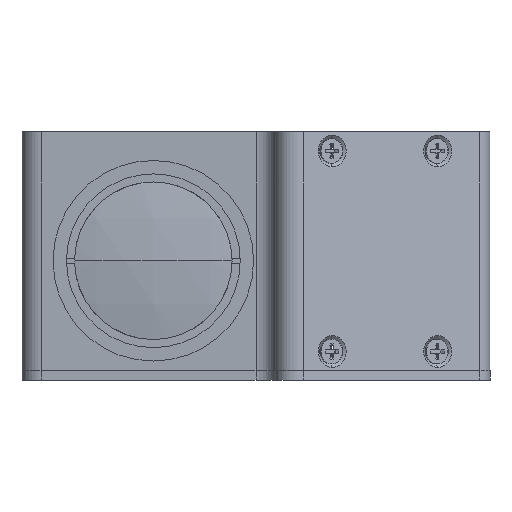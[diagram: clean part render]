
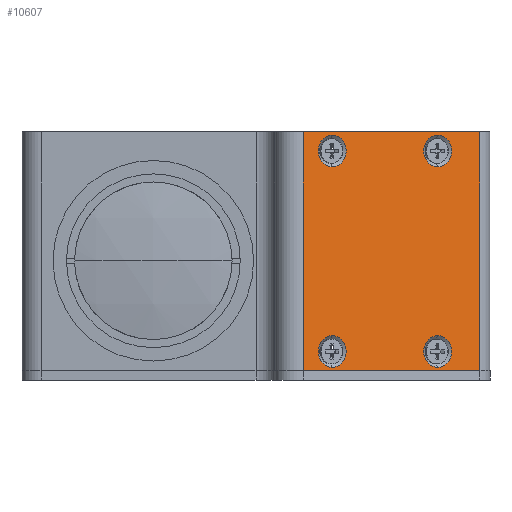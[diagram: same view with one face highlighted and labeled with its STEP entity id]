
A CAD part, left-side view. The second image highlights one B-rep face of the part: STEP entity #10607.
In plain terms, the highlighted planar face has unit normal (-0.883, -0.469, 0).
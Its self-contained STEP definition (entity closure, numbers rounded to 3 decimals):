
#164 = CIRCLE ( 'NONE', #12074, 3.3 ) ;
#388 = VERTEX_POINT ( 'NONE', #3899 ) ;
#584 = VERTEX_POINT ( 'NONE', #7796 ) ;
#800 = ORIENTED_EDGE ( 'NONE', *, *, #3124, .F. ) ;
#1301 = VERTEX_POINT ( 'NONE', #5054 ) ;
#1310 = EDGE_CURVE ( 'NONE', #5086, #10888, #164, .T. ) ;
#1343 = PLANE ( 'NONE',  #9828 ) ;
#1437 = AXIS2_PLACEMENT_3D ( 'NONE', #9881, #2918, #11020 ) ;
#1849 = ORIENTED_EDGE ( 'NONE', *, *, #2270, .F. ) ;
#2143 = CARTESIAN_POINT ( 'NONE',  ( 67.497, -74.473, -23. ) ) ;
#2183 = VERTEX_POINT ( 'NONE', #5056 ) ;
#2270 = EDGE_CURVE ( 'NONE', #10168, #584, #3877, .T. ) ;
#2389 = ORIENTED_EDGE ( 'NONE', *, *, #5484, .F. ) ;
#2438 = CARTESIAN_POINT ( 'NONE',  ( 54.469, -49.971, 2. ) ) ;
#2603 = CARTESIAN_POINT ( 'NONE',  ( 64.256, -68.378, 2. ) ) ;
#2613 = FACE_BOUND ( 'NONE', #13166, .T. ) ;
#2890 = ORIENTED_EDGE ( 'NONE', *, *, #1310, .F. ) ;
#2918 = DIRECTION ( 'NONE',  ( -0.883, -0.469, 0. ) ) ;
#2971 = LINE ( 'NONE', #2603, #11836 ) ;
#3124 = EDGE_CURVE ( 'NONE', #2183, #11766, #13444, .T. ) ;
#3152 = EDGE_CURVE ( 'NONE', #12653, #4524, #7318, .T. ) ;
#3207 = AXIS2_PLACEMENT_3D ( 'NONE', #3964, #12058, #5139 ) ;
#3566 = DIRECTION ( 'NONE',  ( -0.883, -0.469, 0. ) ) ;
#3646 = DIRECTION ( 'NONE',  ( 0., 0., 1. ) ) ;
#3771 = DIRECTION ( 'NONE',  ( 0., 0., 1. ) ) ;
#3877 = CIRCLE ( 'NONE', #1437, 3.3 ) ;
#3884 = ORIENTED_EDGE ( 'NONE', *, *, #6439, .F. ) ;
#3899 = CARTESIAN_POINT ( 'NONE',  ( 44.566, -31.348, 27. ) ) ;
#3960 = CARTESIAN_POINT ( 'NONE',  ( 64.256, -68.378, -23. ) ) ;
#3964 = CARTESIAN_POINT ( 'NONE',  ( 59.561, -59.548, -19. ) ) ;
#4169 = LINE ( 'NONE', #2143, #9979 ) ;
#4223 = VERTEX_POINT ( 'NONE', #3960 ) ;
#4352 = CARTESIAN_POINT ( 'NONE',  ( 44.566, -31.348, 2. ) ) ;
#4393 = ORIENTED_EDGE ( 'NONE', *, *, #13519, .F. ) ;
#4524 = VERTEX_POINT ( 'NONE', #11494 ) ;
#4693 = VERTEX_POINT ( 'NONE', #14109 ) ;
#4775 = DIRECTION ( 'NONE',  ( -0.883, -0.469, 0. ) ) ;
#4880 = ORIENTED_EDGE ( 'NONE', *, *, #9189, .T. ) ;
#4886 = CIRCLE ( 'NONE', #8592, 3.3 ) ;
#5054 = CARTESIAN_POINT ( 'NONE',  ( 44.566, -31.348, -23. ) ) ;
#5056 = CARTESIAN_POINT ( 'NONE',  ( 59.561, -59.548, -22.3 ) ) ;
#5086 = VERTEX_POINT ( 'NONE', #10324 ) ;
#5139 = DIRECTION ( 'NONE',  ( 0., 0., 1. ) ) ;
#5260 = CARTESIAN_POINT ( 'NONE',  ( 59.561, -59.548, 23. ) ) ;
#5362 = CIRCLE ( 'NONE', #3207, 3.3 ) ;
#5484 = EDGE_CURVE ( 'NONE', #584, #10168, #12522, .T. ) ;
#5572 = VECTOR ( 'NONE', #12441, 1000. ) ;
#5720 = FACE_BOUND ( 'NONE', #11639, .T. ) ;
#5752 = CARTESIAN_POINT ( 'NONE',  ( 47.824, -37.475, 23. ) ) ;
#5770 = EDGE_CURVE ( 'NONE', #4524, #12653, #8207, .T. ) ;
#5888 = VECTOR ( 'NONE', #12613, 1000. ) ;
#5905 = DIRECTION ( 'NONE',  ( -0.883, -0.469, 0. ) ) ;
#6076 = FACE_OUTER_BOUND ( 'NONE', #7683, .T. ) ;
#6243 = LINE ( 'NONE', #11471, #5888 ) ;
#6430 = DIRECTION ( 'NONE',  ( 0., 0., 1. ) ) ;
#6439 = EDGE_CURVE ( 'NONE', #10888, #5086, #4886, .T. ) ;
#6502 = DIRECTION ( 'NONE',  ( -0.883, -0.469, 0. ) ) ;
#6618 = DIRECTION ( 'NONE',  ( 0., 0., 1. ) ) ;
#6718 = DIRECTION ( 'NONE',  ( -0.469, 0.883, 0. ) ) ;
#6916 = DIRECTION ( 'NONE',  ( 0., 0., 1. ) ) ;
#7318 = CIRCLE ( 'NONE', #7532, 3.3 ) ;
#7339 = EDGE_CURVE ( 'NONE', #388, #1301, #14412, .T. ) ;
#7532 = AXIS2_PLACEMENT_3D ( 'NONE', #11698, #4775, #12852 ) ;
#7683 = EDGE_LOOP ( 'NONE', ( #4393, #4880, #8732, #9268 ) ) ;
#7796 = CARTESIAN_POINT ( 'NONE',  ( 47.824, -37.475, -22.3 ) ) ;
#7819 = EDGE_LOOP ( 'NONE', ( #1849, #2389 ) ) ;
#7921 = AXIS2_PLACEMENT_3D ( 'NONE', #12805, #5905, #13986 ) ;
#8014 = CARTESIAN_POINT ( 'NONE',  ( 59.561, -59.548, -15.7 ) ) ;
#8207 = CIRCLE ( 'NONE', #10083, 3.3 ) ;
#8401 = CARTESIAN_POINT ( 'NONE',  ( 59.561, -59.548, 19.7 ) ) ;
#8592 = AXIS2_PLACEMENT_3D ( 'NONE', #5752, #13845, #6916 ) ;
#8732 = ORIENTED_EDGE ( 'NONE', *, *, #8996, .F. ) ;
#8810 = FACE_BOUND ( 'NONE', #9722, .T. ) ;
#8878 = ORIENTED_EDGE ( 'NONE', *, *, #5770, .F. ) ;
#8996 = EDGE_CURVE ( 'NONE', #388, #4693, #6243, .T. ) ;
#9189 = EDGE_CURVE ( 'NONE', #4223, #4693, #2971, .T. ) ;
#9268 = ORIENTED_EDGE ( 'NONE', *, *, #7339, .T. ) ;
#9722 = EDGE_LOOP ( 'NONE', ( #2890, #3884 ) ) ;
#9828 = AXIS2_PLACEMENT_3D ( 'NONE', #2438, #10606, #3646 ) ;
#9881 = CARTESIAN_POINT ( 'NONE',  ( 47.824, -37.475, -19. ) ) ;
#9979 = VECTOR ( 'NONE', #6718, 1000. ) ;
#10083 = AXIS2_PLACEMENT_3D ( 'NONE', #5260, #13344, #6430 ) ;
#10123 = EDGE_CURVE ( 'NONE', #11766, #2183, #5362, .T. ) ;
#10140 = ORIENTED_EDGE ( 'NONE', *, *, #3152, .F. ) ;
#10168 = VERTEX_POINT ( 'NONE', #14414 ) ;
#10324 = CARTESIAN_POINT ( 'NONE',  ( 47.824, -37.475, 26.3 ) ) ;
#10525 = AXIS2_PLACEMENT_3D ( 'NONE', #13420, #6502, #14565 ) ;
#10606 = DIRECTION ( 'NONE',  ( -0.883, -0.469, 0. ) ) ;
#10607 = ADVANCED_FACE ( 'NONE', ( #5720, #2613, #14546, #8810, #6076 ), #1343, .T. ) ;
#10877 = CARTESIAN_POINT ( 'NONE',  ( 47.824, -37.475, 23. ) ) ;
#10888 = VERTEX_POINT ( 'NONE', #11139 ) ;
#11020 = DIRECTION ( 'NONE',  ( 0., 0., 1. ) ) ;
#11139 = CARTESIAN_POINT ( 'NONE',  ( 47.824, -37.475, 19.7 ) ) ;
#11471 = CARTESIAN_POINT ( 'NONE',  ( 67.497, -74.473, 27. ) ) ;
#11494 = CARTESIAN_POINT ( 'NONE',  ( 59.561, -59.548, 26.3 ) ) ;
#11639 = EDGE_LOOP ( 'NONE', ( #8878, #10140 ) ) ;
#11698 = CARTESIAN_POINT ( 'NONE',  ( 59.561, -59.548, 23. ) ) ;
#11766 = VERTEX_POINT ( 'NONE', #8014 ) ;
#11836 = VECTOR ( 'NONE', #3771, 1000. ) ;
#11927 = ORIENTED_EDGE ( 'NONE', *, *, #10123, .F. ) ;
#12058 = DIRECTION ( 'NONE',  ( -0.883, -0.469, 0. ) ) ;
#12074 = AXIS2_PLACEMENT_3D ( 'NONE', #10877, #3566, #6618 ) ;
#12441 = DIRECTION ( 'NONE',  ( 0., 0., -1. ) ) ;
#12522 = CIRCLE ( 'NONE', #10525, 3.3 ) ;
#12613 = DIRECTION ( 'NONE',  ( 0.469, -0.883, 0. ) ) ;
#12653 = VERTEX_POINT ( 'NONE', #8401 ) ;
#12805 = CARTESIAN_POINT ( 'NONE',  ( 59.561, -59.548, -19. ) ) ;
#12852 = DIRECTION ( 'NONE',  ( 0., 0., 1. ) ) ;
#13166 = EDGE_LOOP ( 'NONE', ( #11927, #800 ) ) ;
#13344 = DIRECTION ( 'NONE',  ( -0.883, -0.469, 0. ) ) ;
#13420 = CARTESIAN_POINT ( 'NONE',  ( 47.824, -37.475, -19. ) ) ;
#13444 = CIRCLE ( 'NONE', #7921, 3.3 ) ;
#13519 = EDGE_CURVE ( 'NONE', #4223, #1301, #4169, .T. ) ;
#13845 = DIRECTION ( 'NONE',  ( -0.883, -0.469, 0. ) ) ;
#13986 = DIRECTION ( 'NONE',  ( 0., 0., 1. ) ) ;
#14109 = CARTESIAN_POINT ( 'NONE',  ( 64.256, -68.378, 27. ) ) ;
#14412 = LINE ( 'NONE', #4352, #5572 ) ;
#14414 = CARTESIAN_POINT ( 'NONE',  ( 47.824, -37.475, -15.7 ) ) ;
#14546 = FACE_BOUND ( 'NONE', #7819, .T. ) ;
#14565 = DIRECTION ( 'NONE',  ( 0., 0., 1. ) ) ;
